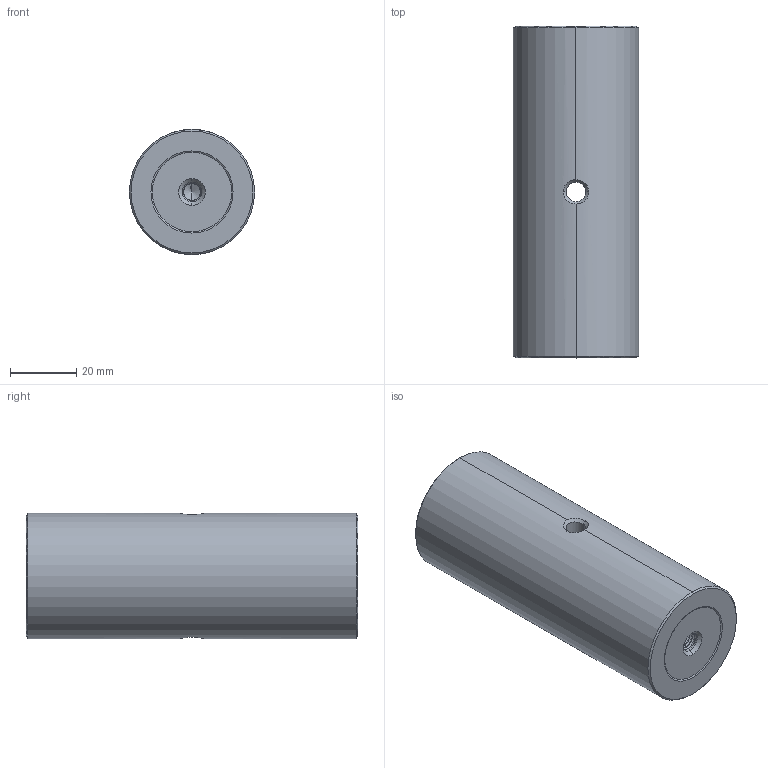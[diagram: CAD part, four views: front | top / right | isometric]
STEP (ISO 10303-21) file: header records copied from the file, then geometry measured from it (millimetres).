
FILE_DESCRIPTION((''),'2;1');
FILE_NAME('CFEP-S__ASM','2021-06-18T',('Administrator'),(''),'CREO PARAMETRIC BY PTC INC, 2017300','CREO PARAMETRIC BY PTC INC, 2017300','');
FILE_SCHEMA(('CONFIG_CONTROL_DESIGN'));
Length unit declared in the file: millimetre
Products named in the file (2): P100_M-STEP_2; CFEP-S__ASM
Assembly tree (1 placements, depth 2):
  CFEP-S__ASM
    P100_M-STEP_2
Bounding box: 37.74 x 100 x 37.74 mm (x, y, z)
Volume: 109888.7 mm3; surface area: 15183.7 mm2
Topology: 1 solids, 1 shells, 84 faces, 218 edges, 136 vertices
Faces by surface type: cylinder 42, bspline 20, cone 16, plane 6
Entity records: 6060 total; most frequent: CARTESIAN_POINT 4192, ORIENTED_EDGE 428, DIRECTION 284, EDGE_CURVE 214, VERTEX_POINT 136, AXIS2_PLACEMENT_3D 103, B_SPLINE_CURVE_WITH_KNOTS 100, EDGE_LOOP 90
